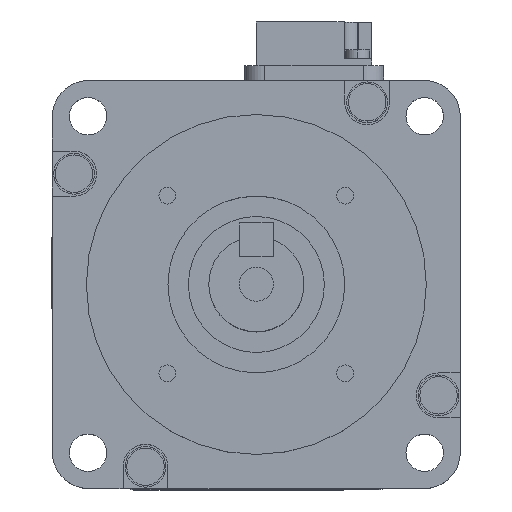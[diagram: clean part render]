
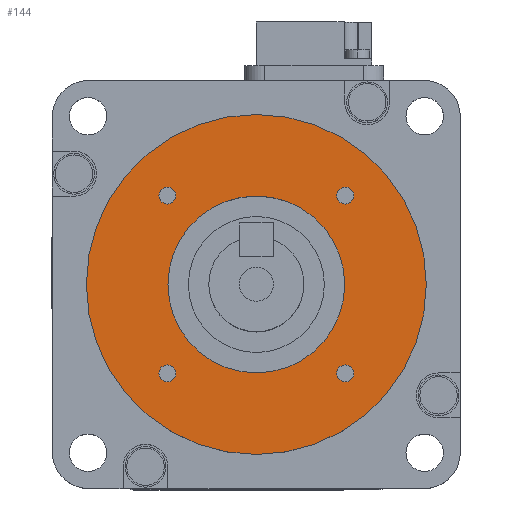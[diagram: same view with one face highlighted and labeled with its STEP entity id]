
A CAD part, top view. The second image highlights one B-rep face of the part: STEP entity #144.
In plain terms, the highlighted planar face has unit normal (0, 0, 1).
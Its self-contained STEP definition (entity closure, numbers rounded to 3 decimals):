
#117 = EDGE_LOOP ( 'NONE', ( #121, #16309 ) ) ;
#121 = ORIENTED_EDGE ( 'NONE', *, *, #123, .F. ) ;
#123 = EDGE_CURVE ( 'NONE', #5365, #5446, #5796, .T. ) ;
#133 = ORIENTED_EDGE ( 'NONE', *, *, #5490, .F. ) ;
#142 = ORIENTED_EDGE ( 'NONE', *, *, #143, .F. ) ;
#143 = EDGE_CURVE ( 'NONE', #5477, #5474, #5824, .T. ) ;
#144 = ADVANCED_FACE ( 'NONE', ( #5819, #5818, #5887, #5886, #5885, #5884 ), #5825, .T. ) ;
#145 = ORIENTED_EDGE ( 'NONE', *, *, #148, .F. ) ;
#148 = EDGE_CURVE ( 'NONE', #5491, #5488, #5870, .T. ) ;
#150 = EDGE_LOOP ( 'NONE', ( #145, #133 ) ) ;
#151 = ORIENTED_EDGE ( 'NONE', *, *, #5476, .F. ) ;
#163 = EDGE_CURVE ( 'NONE', #4925, #4924, #5910, .T. ) ;
#164 = EDGE_LOOP ( 'NONE', ( #166, #165 ) ) ;
#165 = ORIENTED_EDGE ( 'NONE', *, *, #163, .F. ) ;
#166 = ORIENTED_EDGE ( 'NONE', *, *, #4923, .F. ) ;
#167 = EDGE_CURVE ( 'NONE', #4859, #4858, #5906, .T. ) ;
#168 = ORIENTED_EDGE ( 'NONE', *, *, #4857, .T. ) ;
#169 = ORIENTED_EDGE ( 'NONE', *, *, #167, .T. ) ;
#170 = EDGE_LOOP ( 'NONE', ( #169, #168 ) ) ;
#172 = EDGE_CURVE ( 'NONE', #5379, #5376, #5894, .T. ) ;
#173 = ORIENTED_EDGE ( 'NONE', *, *, #5378, .F. ) ;
#176 = ORIENTED_EDGE ( 'NONE', *, *, #172, .F. ) ;
#4857 = EDGE_CURVE ( 'NONE', #4858, #4859, #13458, .T. ) ;
#4858 = VERTEX_POINT ( 'NONE', #13454 ) ;
#4859 = VERTEX_POINT ( 'NONE', #13453 ) ;
#4923 = EDGE_CURVE ( 'NONE', #4924, #4925, #13584, .T. ) ;
#4924 = VERTEX_POINT ( 'NONE', #13638 ) ;
#4925 = VERTEX_POINT ( 'NONE', #13637 ) ;
#5364 = EDGE_CURVE ( 'NONE', #5446, #5365, #14472, .T. ) ;
#5365 = VERTEX_POINT ( 'NONE', #14530 ) ;
#5376 = VERTEX_POINT ( 'NONE', #14508 ) ;
#5378 = EDGE_CURVE ( 'NONE', #5376, #5379, #14507, .T. ) ;
#5379 = VERTEX_POINT ( 'NONE', #14502 ) ;
#5446 = VERTEX_POINT ( 'NONE', #14686 ) ;
#5474 = VERTEX_POINT ( 'NONE', #14701 ) ;
#5476 = EDGE_CURVE ( 'NONE', #5474, #5477, #14700, .T. ) ;
#5477 = VERTEX_POINT ( 'NONE', #14695 ) ;
#5488 = VERTEX_POINT ( 'NONE', #14735 ) ;
#5490 = EDGE_CURVE ( 'NONE', #5488, #5491, #14734, .T. ) ;
#5491 = VERTEX_POINT ( 'NONE', #14729 ) ;
#5792 = DIRECTION ( 'NONE',  ( 0., 1., 0. ) ) ;
#5793 = DIRECTION ( 'NONE',  ( 0., 0., 1. ) ) ;
#5794 = CARTESIAN_POINT ( 'NONE',  ( -13.081, 13.081, 3. ) ) ;
#5795 = AXIS2_PLACEMENT_3D ( 'NONE', #5794, #5793, #5792 ) ;
#5796 = CIRCLE ( 'NONE', #5795, 1.25 ) ;
#5818 = FACE_BOUND ( 'NONE', #150, .T. ) ;
#5819 = FACE_BOUND ( 'NONE', #16301, .T. ) ;
#5820 = DIRECTION ( 'NONE',  ( 0., -1., 0. ) ) ;
#5821 = DIRECTION ( 'NONE',  ( 0., 0., 1. ) ) ;
#5822 = CARTESIAN_POINT ( 'NONE',  ( 13.081, -13.081, 3. ) ) ;
#5823 = AXIS2_PLACEMENT_3D ( 'NONE', #5822, #5821, #5820 ) ;
#5824 = CIRCLE ( 'NONE', #5823, 1.25 ) ;
#5825 = PLANE ( 'NONE',  #5883 ) ;
#5866 = DIRECTION ( 'NONE',  ( -1., 0., 0. ) ) ;
#5867 = DIRECTION ( 'NONE',  ( 0., 0., 1. ) ) ;
#5868 = CARTESIAN_POINT ( 'NONE',  ( -13.081, -13.081, 3. ) ) ;
#5869 = AXIS2_PLACEMENT_3D ( 'NONE', #5868, #5867, #5866 ) ;
#5870 = CIRCLE ( 'NONE', #5869, 1.25 ) ;
#5880 = DIRECTION ( 'NONE',  ( 1., 0., 0. ) ) ;
#5881 = DIRECTION ( 'NONE',  ( 0., 0., 1. ) ) ;
#5882 = CARTESIAN_POINT ( 'NONE',  ( 0., 25., 3. ) ) ;
#5883 = AXIS2_PLACEMENT_3D ( 'NONE', #5882, #5881, #5880 ) ;
#5884 = FACE_OUTER_BOUND ( 'NONE', #164, .T. ) ;
#5885 = FACE_BOUND ( 'NONE', #170, .T. ) ;
#5886 = FACE_BOUND ( 'NONE', #16310, .T. ) ;
#5887 = FACE_BOUND ( 'NONE', #117, .T. ) ;
#5891 = DIRECTION ( 'NONE',  ( 1., 0., 0. ) ) ;
#5892 = DIRECTION ( 'NONE',  ( 0., 0., 1. ) ) ;
#5893 = AXIS2_PLACEMENT_3D ( 'NONE', #5899, #5892, #5891 ) ;
#5894 = CIRCLE ( 'NONE', #5893, 1.25 ) ;
#5899 = CARTESIAN_POINT ( 'NONE',  ( 13.081, 13.081, 3. ) ) ;
#5902 = DIRECTION ( 'NONE',  ( -1., 0., 0. ) ) ;
#5903 = DIRECTION ( 'NONE',  ( 0., 0., -1. ) ) ;
#5904 = CARTESIAN_POINT ( 'NONE',  ( 0., 0., 3. ) ) ;
#5905 = AXIS2_PLACEMENT_3D ( 'NONE', #5904, #5903, #5902 ) ;
#5906 = CIRCLE ( 'NONE', #5905, 13. ) ;
#5907 = DIRECTION ( 'NONE',  ( -1., 0., 0. ) ) ;
#5908 = DIRECTION ( 'NONE',  ( 0., 0., -1. ) ) ;
#5909 = AXIS2_PLACEMENT_3D ( 'NONE', #5915, #5908, #5907 ) ;
#5910 = CIRCLE ( 'NONE', #5909, 25. ) ;
#5915 = CARTESIAN_POINT ( 'NONE',  ( 0., 0., 3. ) ) ;
#13453 = CARTESIAN_POINT ( 'NONE',  ( -13., 0., 3. ) ) ;
#13454 = CARTESIAN_POINT ( 'NONE',  ( 13., 0., 3. ) ) ;
#13455 = DIRECTION ( 'NONE',  ( -1., 0., 0. ) ) ;
#13456 = DIRECTION ( 'NONE',  ( 0., 0., -1. ) ) ;
#13457 = AXIS2_PLACEMENT_3D ( 'NONE', #13464, #13456, #13455 ) ;
#13458 = CIRCLE ( 'NONE', #13457, 13. ) ;
#13464 = CARTESIAN_POINT ( 'NONE',  ( 0., 0., 3. ) ) ;
#13584 = CIRCLE ( 'NONE', #13642, 25. ) ;
#13637 = CARTESIAN_POINT ( 'NONE',  ( 25., 0., 3. ) ) ;
#13638 = CARTESIAN_POINT ( 'NONE',  ( -25., 0., 3. ) ) ;
#13639 = DIRECTION ( 'NONE',  ( -1., 0., 0. ) ) ;
#13640 = DIRECTION ( 'NONE',  ( 0., 0., -1. ) ) ;
#13641 = CARTESIAN_POINT ( 'NONE',  ( 0., 0., 3. ) ) ;
#13642 = AXIS2_PLACEMENT_3D ( 'NONE', #13641, #13640, #13639 ) ;
#14469 = DIRECTION ( 'NONE',  ( 0., 0., 1. ) ) ;
#14470 = CARTESIAN_POINT ( 'NONE',  ( -13.081, 13.081, 3. ) ) ;
#14471 = AXIS2_PLACEMENT_3D ( 'NONE', #14470, #14469, #14531 ) ;
#14472 = CIRCLE ( 'NONE', #14471, 1.25 ) ;
#14502 = CARTESIAN_POINT ( 'NONE',  ( 14.331, 13.081, 3. ) ) ;
#14503 = DIRECTION ( 'NONE',  ( 1., 0., 0. ) ) ;
#14504 = DIRECTION ( 'NONE',  ( 0., 0., 1. ) ) ;
#14505 = CARTESIAN_POINT ( 'NONE',  ( 13.081, 13.081, 3. ) ) ;
#14506 = AXIS2_PLACEMENT_3D ( 'NONE', #14505, #14504, #14503 ) ;
#14507 = CIRCLE ( 'NONE', #14506, 1.25 ) ;
#14508 = CARTESIAN_POINT ( 'NONE',  ( 11.831, 13.081, 3. ) ) ;
#14530 = CARTESIAN_POINT ( 'NONE',  ( -11.831, 13.081, 3. ) ) ;
#14531 = DIRECTION ( 'NONE',  ( 0., 1., 0. ) ) ;
#14686 = CARTESIAN_POINT ( 'NONE',  ( -14.331, 13.081, 3. ) ) ;
#14695 = CARTESIAN_POINT ( 'NONE',  ( 14.331, -13.081, 3. ) ) ;
#14696 = DIRECTION ( 'NONE',  ( 0., -1., 0. ) ) ;
#14697 = DIRECTION ( 'NONE',  ( 0., 0., 1. ) ) ;
#14698 = CARTESIAN_POINT ( 'NONE',  ( 13.081, -13.081, 3. ) ) ;
#14699 = AXIS2_PLACEMENT_3D ( 'NONE', #14698, #14697, #14696 ) ;
#14700 = CIRCLE ( 'NONE', #14699, 1.25 ) ;
#14701 = CARTESIAN_POINT ( 'NONE',  ( 11.831, -13.081, 3. ) ) ;
#14729 = CARTESIAN_POINT ( 'NONE',  ( -11.831, -13.081, 3. ) ) ;
#14730 = DIRECTION ( 'NONE',  ( -1., 0., 0. ) ) ;
#14731 = DIRECTION ( 'NONE',  ( 0., 0., 1. ) ) ;
#14732 = CARTESIAN_POINT ( 'NONE',  ( -13.081, -13.081, 3. ) ) ;
#14733 = AXIS2_PLACEMENT_3D ( 'NONE', #14732, #14731, #14730 ) ;
#14734 = CIRCLE ( 'NONE', #14733, 1.25 ) ;
#14735 = CARTESIAN_POINT ( 'NONE',  ( -14.331, -13.081, 3. ) ) ;
#16301 = EDGE_LOOP ( 'NONE', ( #142, #151 ) ) ;
#16309 = ORIENTED_EDGE ( 'NONE', *, *, #5364, .F. ) ;
#16310 = EDGE_LOOP ( 'NONE', ( #176, #173 ) ) ;
